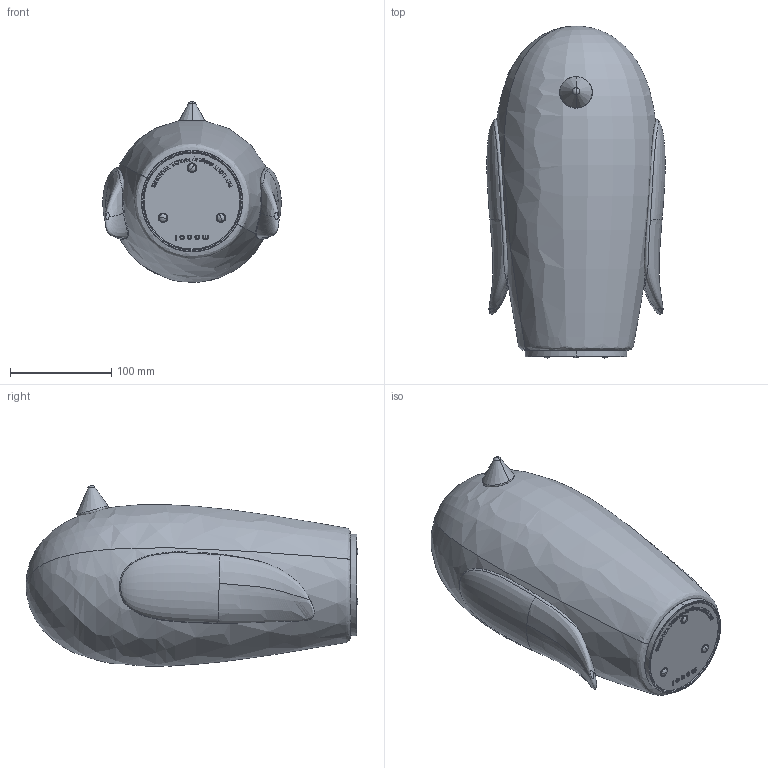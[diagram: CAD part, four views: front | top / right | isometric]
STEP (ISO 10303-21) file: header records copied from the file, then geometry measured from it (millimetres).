
FILE_DESCRIPTION (( 'STEP AP214' ), '1' );
FILE_NAME ('A000659_Creations file_Default__04-05-2018.step', '2018-05-04T08:38:53', ( '' ), ( '' ), 'SwSTEP 2.0', 'SolidWorks 2017', '' );
FILE_SCHEMA (( 'AUTOMOTIVE_DESIGN' ));
Length unit declared in the file: millimetre
Products named in the file (1): A000659_Creations file_Default__04-05-2018
Bounding box: 176.07 x 327.91 x 178.71 mm (x, y, z)
Surface area: 197323.5 mm2 (no closed solid volume)
Topology: 0 solids, 12 shells, 249 faces, 1136 edges, 853 vertices
Faces by surface type: plane 134, bspline 81, cone 12, cylinder 12, torus 8, sphere 2
Entity records: 31342 total; most frequent: CARTESIAN_POINT 20632, ORIENTED_EDGE 1570, DIRECTION 1202, EDGE_CURVE 1130, VERTEX_POINT 853, LINE 722, VECTOR 722, B_SPLINE_CURVE_WITH_KNOTS 331
